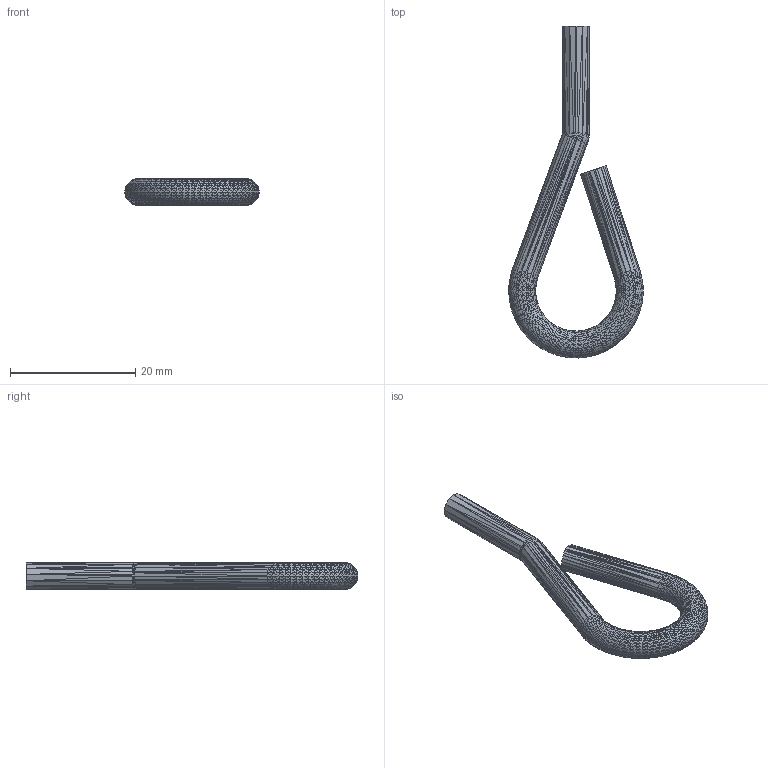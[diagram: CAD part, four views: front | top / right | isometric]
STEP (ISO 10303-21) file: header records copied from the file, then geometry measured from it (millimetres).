
FILE_DESCRIPTION((''),'2;1');
FILE_NAME('001710', '2025-08-04T09:00:20', (''), (''), 'ImageToStl.com STEP Converter','', '');
FILE_SCHEMA(('AUTOMOTIVE_DESIGN_CC2'));
Length unit declared in the file: metre
Products named in the file (1): product0
Bounding box: 21.46 x 52.97 x 4.3 mm (x, y, z)
Surface area: 1251.9 mm2 (no closed solid volume)
Topology: 0 solids, 2374 shells, 2374 faces, 7122 edges, 1189 vertices
Faces by surface type: plane 2374
Entity records: 54634 total; most frequent: DIRECTION 11872, ORIENTED_EDGE 7122, EDGE_CURVE 7122, LINE 7122, VECTOR 7122, AXIS2_PLACEMENT_3D 2375, FACE_SURFACE 2374, PLANE 2374
